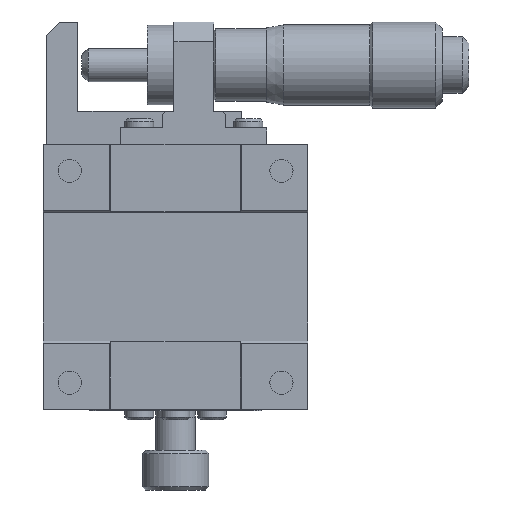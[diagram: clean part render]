
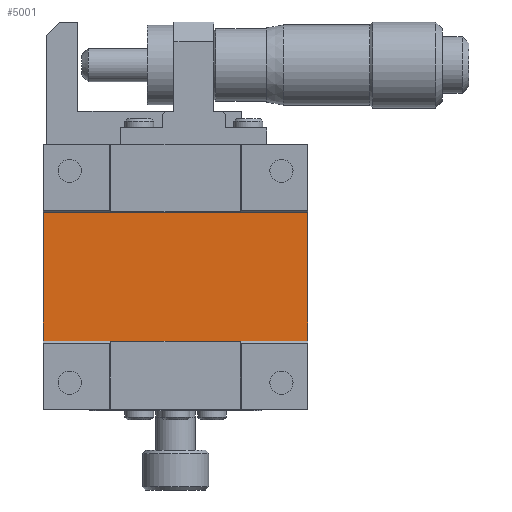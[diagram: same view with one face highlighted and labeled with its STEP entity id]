
A CAD part, front view. The second image highlights one B-rep face of the part: STEP entity #5001.
In plain terms, the highlighted planar face has unit normal (0, -1, 0).
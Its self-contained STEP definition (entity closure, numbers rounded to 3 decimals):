
#5001 = ADVANCED_FACE ( 'NONE', ( #12469 ), #12468, .T. ) ;
#5002 = EDGE_LOOP ( 'NONE', ( #5003, #5006, #5007, #5009 ) ) ;
#5003 = ORIENTED_EDGE ( 'NONE', *, *, #5004, .F. ) ;
#5004 = EDGE_CURVE ( 'NONE', #5344, #5005, #12784, .T. ) ;
#5005 = VERTEX_POINT ( 'NONE', #12776 ) ;
#5006 = ORIENTED_EDGE ( 'NONE', *, *, #5343, .F. ) ;
#5007 = ORIENTED_EDGE ( 'NONE', *, *, #28426, .T. ) ;
#5009 = ORIENTED_EDGE ( 'NONE', *, *, #5011, .T. ) ;
#5011 = EDGE_CURVE ( 'NONE', #28468, #5005, #12770, .T. ) ;
#5343 = EDGE_CURVE ( 'NONE', #28427, #5344, #12971, .T. ) ;
#5344 = VERTEX_POINT ( 'NONE', #13091 ) ;
#12295 = CARTESIAN_POINT ( 'NONE',  ( 20., 0.3, -9.7 ) ) ;
#12468 = PLANE ( 'NONE',  #12796 ) ;
#12469 = FACE_OUTER_BOUND ( 'NONE', #5002, .T. ) ;
#12765 = DIRECTION ( 'NONE',  ( -1., 0., 0. ) ) ;
#12767 = VECTOR ( 'NONE', #12765, 1000. ) ;
#12768 = CARTESIAN_POINT ( 'NONE',  ( 20., 0.3, 9.7 ) ) ;
#12770 = LINE ( 'NONE', #12768, #12767 ) ;
#12776 = CARTESIAN_POINT ( 'NONE',  ( -20., 0.3, 9.7 ) ) ;
#12778 = DIRECTION ( 'NONE',  ( 0., 0., 1. ) ) ;
#12780 = VECTOR ( 'NONE', #12778, 1000. ) ;
#12782 = CARTESIAN_POINT ( 'NONE',  ( -20., 0.3, 0. ) ) ;
#12784 = LINE ( 'NONE', #12782, #12780 ) ;
#12792 = DIRECTION ( 'NONE',  ( 0., 0., -1. ) ) ;
#12794 = DIRECTION ( 'NONE',  ( 0., -1., 0. ) ) ;
#12795 = CARTESIAN_POINT ( 'NONE',  ( 20., 0.3, 0. ) ) ;
#12796 = AXIS2_PLACEMENT_3D ( 'NONE', #12795, #12794, #12792 ) ;
#12797 = DIRECTION ( 'NONE',  ( -1., 0., 0. ) ) ;
#12802 = VECTOR ( 'NONE', #12797, 1000. ) ;
#12971 = LINE ( 'NONE', #12295, #12802 ) ;
#13091 = CARTESIAN_POINT ( 'NONE',  ( -20., 0.3, -9.7 ) ) ;
#17097 = CARTESIAN_POINT ( 'NONE',  ( 20., 0.3, -9.7 ) ) ;
#17098 = DIRECTION ( 'NONE',  ( 0., 0., 1. ) ) ;
#17099 = VECTOR ( 'NONE', #17098, 1000. ) ;
#17100 = CARTESIAN_POINT ( 'NONE',  ( 20., 0.3, 0. ) ) ;
#17101 = LINE ( 'NONE', #17100, #17099 ) ;
#17260 = CARTESIAN_POINT ( 'NONE',  ( 20., 0.3, 9.7 ) ) ;
#28426 = EDGE_CURVE ( 'NONE', #28427, #28468, #17101, .T. ) ;
#28427 = VERTEX_POINT ( 'NONE', #17097 ) ;
#28468 = VERTEX_POINT ( 'NONE', #17260 ) ;
